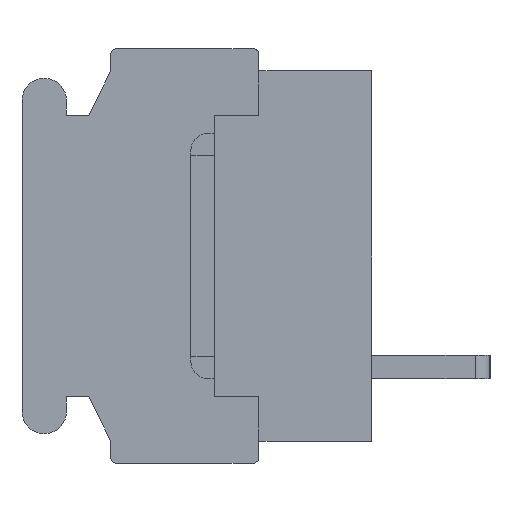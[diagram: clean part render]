
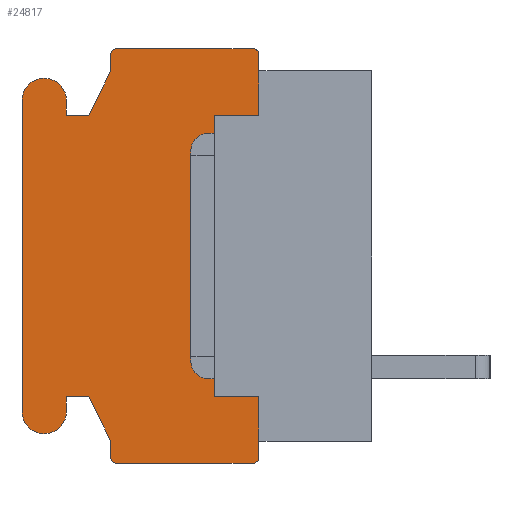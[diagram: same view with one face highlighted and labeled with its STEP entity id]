
A CAD part, left-side view. The second image highlights one B-rep face of the part: STEP entity #24817.
In plain terms, the highlighted planar face has unit normal (-1, 0, 0).
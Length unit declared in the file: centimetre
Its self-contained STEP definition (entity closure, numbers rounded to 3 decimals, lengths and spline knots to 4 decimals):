
#1448=PLANE('',#40747);
#2199=VECTOR('',#26195,1.);
#3812=VECTOR('',#29671,1.);
#3813=VECTOR('',#29672,1.);
#3814=VECTOR('',#29675,1.);
#3815=VECTOR('',#29678,1.);
#3816=VECTOR('',#29679,1.);
#3817=VECTOR('',#29680,1.);
#3818=VECTOR('',#29681,1.);
#3819=VECTOR('',#29684,1.);
#3820=VECTOR('',#29687,1.);
#3821=VECTOR('',#29688,1.);
#3822=VECTOR('',#29689,1.);
#3823=VECTOR('',#29690,1.);
#3824=VECTOR('',#29693,1.);
#3825=VECTOR('',#29696,1.);
#3826=VECTOR('',#29697,1.);
#3827=VECTOR('',#29698,1.);
#3828=VECTOR('',#29699,1.);
#4859=LINE('',#32482,#2199);
#6472=LINE('',#37605,#3812);
#6473=LINE('',#37607,#3813);
#6474=LINE('',#37611,#3814);
#6475=LINE('',#37615,#3815);
#6476=LINE('',#37617,#3816);
#6477=LINE('',#37619,#3817);
#6478=LINE('',#37621,#3818);
#6479=LINE('',#37625,#3819);
#6480=LINE('',#37629,#3820);
#6481=LINE('',#37631,#3821);
#6482=LINE('',#37633,#3822);
#6483=LINE('',#37635,#3823);
#6484=LINE('',#37639,#3824);
#6485=LINE('',#37643,#3825);
#6486=LINE('',#37644,#3826);
#6487=LINE('',#37646,#3827);
#6488=LINE('',#37647,#3828);
#7460=VERTEX_POINT('',#32483);
#7461=VERTEX_POINT('',#32484);
#7557=VERTEX_POINT('',#32751);
#7604=VERTEX_POINT('',#32850);
#8954=VERTEX_POINT('',#37606);
#8955=VERTEX_POINT('',#37608);
#8956=VERTEX_POINT('',#37610);
#8957=VERTEX_POINT('',#37612);
#8958=VERTEX_POINT('',#37614);
#8959=VERTEX_POINT('',#37616);
#8960=VERTEX_POINT('',#37618);
#8961=VERTEX_POINT('',#37620);
#8962=VERTEX_POINT('',#37622);
#8963=VERTEX_POINT('',#37624);
#8964=VERTEX_POINT('',#37626);
#8965=VERTEX_POINT('',#37628);
#8966=VERTEX_POINT('',#37630);
#8967=VERTEX_POINT('',#37632);
#8968=VERTEX_POINT('',#37634);
#8969=VERTEX_POINT('',#37636);
#8970=VERTEX_POINT('',#37638);
#8971=VERTEX_POINT('',#37640);
#8972=VERTEX_POINT('',#37642);
#8973=VERTEX_POINT('',#37645);
#9806=CIRCLE('',#40748,0.02);
#9807=CIRCLE('',#40749,0.02);
#9808=CIRCLE('',#40750,0.075);
#9809=CIRCLE('',#40751,0.075);
#9810=CIRCLE('',#40752,0.02);
#9811=CIRCLE('',#40753,0.02);
#10620=EDGE_CURVE('',#7460,#7461,#4859,.T.);
#12897=EDGE_CURVE('',#8954,#7557,#6472,.T.);
#12898=EDGE_CURVE('',#8955,#7557,#6473,.T.);
#12899=EDGE_CURVE('',#8956,#8955,#9806,.T.);
#12900=EDGE_CURVE('',#8957,#8956,#6474,.T.);
#12901=EDGE_CURVE('',#8958,#8957,#9807,.T.);
#12902=EDGE_CURVE('',#8959,#8958,#6475,.T.);
#12903=EDGE_CURVE('',#8960,#8959,#6476,.T.);
#12904=EDGE_CURVE('',#8961,#8960,#6477,.T.);
#12905=EDGE_CURVE('',#8962,#8961,#6478,.T.);
#12906=EDGE_CURVE('',#8963,#8962,#9808,.T.);
#12907=EDGE_CURVE('',#8964,#8963,#6479,.T.);
#12908=EDGE_CURVE('',#8965,#8964,#9809,.T.);
#12909=EDGE_CURVE('',#8966,#8965,#6480,.T.);
#12910=EDGE_CURVE('',#8967,#8966,#6481,.T.);
#12911=EDGE_CURVE('',#8968,#8967,#6482,.T.);
#12912=EDGE_CURVE('',#8969,#8968,#6483,.T.);
#12913=EDGE_CURVE('',#8970,#8969,#9810,.T.);
#12914=EDGE_CURVE('',#8971,#8970,#6484,.T.);
#12915=EDGE_CURVE('',#8972,#8971,#9811,.T.);
#12916=EDGE_CURVE('',#7604,#8972,#6485,.T.);
#12917=EDGE_CURVE('',#7604,#8973,#6486,.T.);
#12918=EDGE_CURVE('',#8973,#7460,#6487,.T.);
#12919=EDGE_CURVE('',#7461,#8954,#6488,.T.);
#19585=ORIENTED_EDGE('',*,*,#12897,.T.);
#19586=ORIENTED_EDGE('',*,*,#12898,.F.);
#19587=ORIENTED_EDGE('',*,*,#12899,.F.);
#19588=ORIENTED_EDGE('',*,*,#12900,.F.);
#19589=ORIENTED_EDGE('',*,*,#12901,.F.);
#19590=ORIENTED_EDGE('',*,*,#12902,.F.);
#19591=ORIENTED_EDGE('',*,*,#12903,.F.);
#19592=ORIENTED_EDGE('',*,*,#12904,.F.);
#19593=ORIENTED_EDGE('',*,*,#12905,.F.);
#19594=ORIENTED_EDGE('',*,*,#12906,.F.);
#19595=ORIENTED_EDGE('',*,*,#12907,.F.);
#19596=ORIENTED_EDGE('',*,*,#12908,.F.);
#19597=ORIENTED_EDGE('',*,*,#12909,.F.);
#19598=ORIENTED_EDGE('',*,*,#12910,.F.);
#19599=ORIENTED_EDGE('',*,*,#12911,.F.);
#19600=ORIENTED_EDGE('',*,*,#12912,.F.);
#19601=ORIENTED_EDGE('',*,*,#12913,.F.);
#19602=ORIENTED_EDGE('',*,*,#12914,.F.);
#19603=ORIENTED_EDGE('',*,*,#12915,.F.);
#19604=ORIENTED_EDGE('',*,*,#12916,.F.);
#19605=ORIENTED_EDGE('',*,*,#12917,.T.);
#19606=ORIENTED_EDGE('',*,*,#12918,.T.);
#19607=ORIENTED_EDGE('',*,*,#10620,.T.);
#19608=ORIENTED_EDGE('',*,*,#12919,.T.);
#21977=EDGE_LOOP('',(#19585,#19586,#19587,#19588,#19589,#19590,#19591,#19592,
#19593,#19594,#19595,#19596,#19597,#19598,#19599,#19600,#19601,#19602,#19603,
#19604,#19605,#19606,#19607,#19608));
#23443=FACE_BOUND('',#21977,.T.);
#24817=ADVANCED_FACE('',(#23443),#1448,.F.);
#26195=DIRECTION('',(0.,0.,1.));
#29670=DIRECTION('',(1.,0.,0.));
#29671=DIRECTION('',(0.,0.,1.));
#29672=DIRECTION('',(0.,0.,-1.));
#29673=DIRECTION('',(1.,0.,0.));
#29674=DIRECTION('',(0.,0.,-0.02));
#29675=DIRECTION('',(0.,-1.,0.));
#29676=DIRECTION('',(1.,0.,0.));
#29677=DIRECTION('',(0.,0.,-0.02));
#29678=DIRECTION('',(0.,0.,1.));
#29679=DIRECTION('',(0.,-0.447,0.894));
#29680=DIRECTION('',(0.,-1.,0.));
#29681=DIRECTION('',(0.,0.,-1.));
#29682=DIRECTION('',(1.,0.,0.));
#29683=DIRECTION('',(0.,0.,-0.075));
#29684=DIRECTION('',(0.,0.,1.));
#29685=DIRECTION('',(1.,0.,0.));
#29686=DIRECTION('',(0.,0.,-0.075));
#29687=DIRECTION('',(0.,0.,-1.));
#29688=DIRECTION('',(0.,1.,0.));
#29689=DIRECTION('',(0.,0.447,0.894));
#29690=DIRECTION('',(0.,0.,1.));
#29691=DIRECTION('',(1.,0.,0.));
#29692=DIRECTION('',(0.,0.,-0.02));
#29693=DIRECTION('',(0.,1.,0.));
#29694=DIRECTION('',(1.,0.,0.));
#29695=DIRECTION('',(0.,0.,-0.02));
#29696=DIRECTION('',(0.,0.,-1.));
#29697=DIRECTION('',(0.,0.,1.));
#29698=DIRECTION('',(0.,1.,0.));
#29699=DIRECTION('',(0.,-1.,0.));
#32482=CARTESIAN_POINT('',(-0.762,0.53,0.));
#32483=CARTESIAN_POINT('',(-0.762,0.53,-0.475));
#32484=CARTESIAN_POINT('',(-0.762,0.53,0.475));
#32751=CARTESIAN_POINT('',(-0.762,0.38,0.625));
#32850=CARTESIAN_POINT('',(-0.762,0.38,-0.625));
#37604=CARTESIAN_POINT('',(-0.762,0.6059,0.));
#37605=CARTESIAN_POINT('',(-0.762,0.38,0.275));
#37606=CARTESIAN_POINT('',(-0.762,0.38,0.475));
#37607=CARTESIAN_POINT('',(-0.762,0.38,0.68));
#37608=CARTESIAN_POINT('',(-0.762,0.38,0.68));
#37609=CARTESIAN_POINT('',(-0.762,0.4,0.68));
#37610=CARTESIAN_POINT('',(-0.762,0.4,0.7));
#37611=CARTESIAN_POINT('',(-0.762,0.86,0.7));
#37612=CARTESIAN_POINT('',(-0.762,0.86,0.7));
#37613=CARTESIAN_POINT('',(-0.762,0.86,0.68));
#37614=CARTESIAN_POINT('',(-0.762,0.88,0.68));
#37615=CARTESIAN_POINT('',(-0.762,0.88,0.625));
#37616=CARTESIAN_POINT('',(-0.762,0.88,0.625));
#37617=CARTESIAN_POINT('',(-0.762,0.955,0.475));
#37618=CARTESIAN_POINT('',(-0.762,0.955,0.475));
#37619=CARTESIAN_POINT('',(-0.762,1.03,0.475));
#37620=CARTESIAN_POINT('',(-0.762,1.03,0.475));
#37621=CARTESIAN_POINT('',(-0.762,1.03,0.525));
#37622=CARTESIAN_POINT('',(-0.762,1.03,0.525));
#37623=CARTESIAN_POINT('',(-0.762,1.105,0.525));
#37624=CARTESIAN_POINT('',(-0.762,1.18,0.525));
#37625=CARTESIAN_POINT('',(-0.762,1.18,-0.525));
#37626=CARTESIAN_POINT('',(-0.762,1.18,-0.525));
#37627=CARTESIAN_POINT('',(-0.762,1.105,-0.525));
#37628=CARTESIAN_POINT('',(-0.762,1.03,-0.525));
#37629=CARTESIAN_POINT('',(-0.762,1.03,-0.475));
#37630=CARTESIAN_POINT('',(-0.762,1.03,-0.475));
#37631=CARTESIAN_POINT('',(-0.762,0.955,-0.475));
#37632=CARTESIAN_POINT('',(-0.762,0.955,-0.475));
#37633=CARTESIAN_POINT('',(-0.762,0.88,-0.625));
#37634=CARTESIAN_POINT('',(-0.762,0.88,-0.625));
#37635=CARTESIAN_POINT('',(-0.762,0.88,-0.68));
#37636=CARTESIAN_POINT('',(-0.762,0.88,-0.68));
#37637=CARTESIAN_POINT('',(-0.762,0.86,-0.68));
#37638=CARTESIAN_POINT('',(-0.762,0.86,-0.7));
#37639=CARTESIAN_POINT('',(-0.762,0.4,-0.7));
#37640=CARTESIAN_POINT('',(-0.762,0.4,-0.7));
#37641=CARTESIAN_POINT('',(-0.762,0.4,-0.68));
#37642=CARTESIAN_POINT('',(-0.762,0.38,-0.68));
#37643=CARTESIAN_POINT('',(-0.762,0.38,-0.625));
#37644=CARTESIAN_POINT('',(-0.762,0.38,-0.275));
#37645=CARTESIAN_POINT('',(-0.762,0.38,-0.475));
#37646=CARTESIAN_POINT('',(-0.762,0.5304,-0.475));
#37647=CARTESIAN_POINT('',(-0.762,0.5304,0.475));
#40747=AXIS2_PLACEMENT_3D('',#37604,#29670,$);
#40748=AXIS2_PLACEMENT_3D('',#37609,#29673,#29674);
#40749=AXIS2_PLACEMENT_3D('',#37613,#29676,#29677);
#40750=AXIS2_PLACEMENT_3D('',#37623,#29682,#29683);
#40751=AXIS2_PLACEMENT_3D('',#37627,#29685,#29686);
#40752=AXIS2_PLACEMENT_3D('',#37637,#29691,#29692);
#40753=AXIS2_PLACEMENT_3D('',#37641,#29694,#29695);
